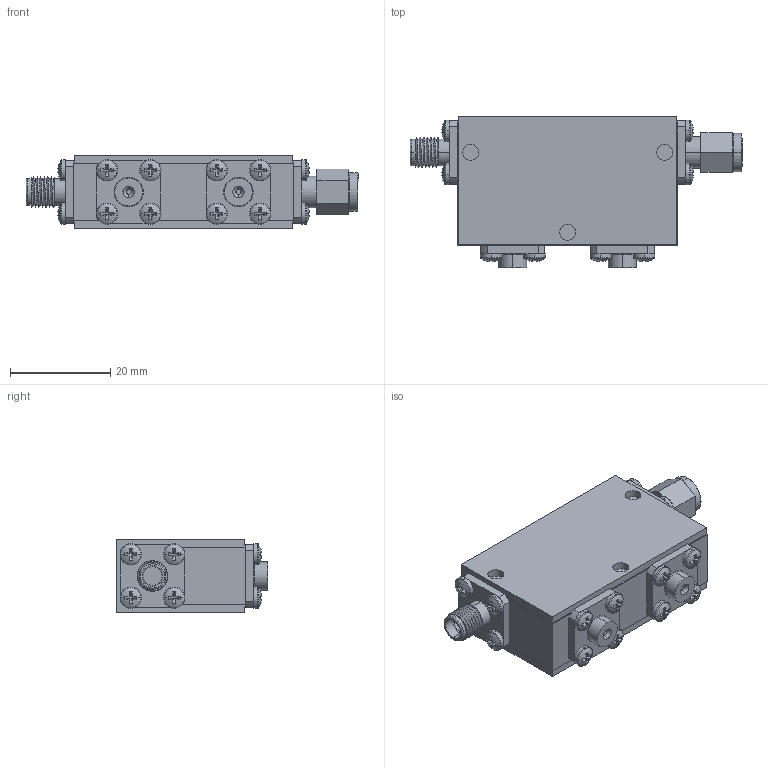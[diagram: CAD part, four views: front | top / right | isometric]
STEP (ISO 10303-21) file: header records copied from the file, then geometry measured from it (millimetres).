
FILE_DESCRIPTION (( 'STEP AP214' ), '1' );
FILE_NAME ('Package 19-2 Iso FM, Cryo Shielded.STEP', '2023-12-20T23:09:15', ( '' ), ( '' ), 'SwSTEP 2.0', 'SolidWorks 2016', '' );
FILE_SCHEMA (( 'AUTOMOTIVE_DESIGN' ));
Length unit declared in the file: inch
Products named in the file (7): Delta SMA-Male; Package Size 19; 030013-1A Same Base thickness as connectors; WR055; Package 19-2 Iso FM, Cryo Shielded; pan cross head_ai_CR-PHMS 0.086-56x0.125x0.125-N; Delta SMA-Female 0.500 flange Threaded
Assembly tree (22 placements, depth 2):
  Package 19-2 Iso FM, Cryo Shielded
    Delta SMA-Female 0.500 flange Threaded
    pan cross head_ai_CR-PHMS 0.086-56x0.125x0.125-N  x16
    Package Size 19
    Delta SMA-Male
    WR055
    030013-1A Same Base thickness as connectors  x2
Bounding box: 66.09 x 30.23 x 14.58 mm (x, y, z)
Volume: 17902.9 mm3; surface area: 13063.1 mm2
Topology: 22 solids, 22 shells, 562 faces, 1289 edges, 797 vertices
Faces by surface type: plane 305, cylinder 170, torus 44, sphere 32, cone 8, bspline 3
Entity records: 6845 total; most frequent: CARTESIAN_POINT 1703, DIRECTION 1105, ORIENTED_EDGE 918, EDGE_CURVE 459, AXIS2_PLACEMENT_3D 447, VERTEX_POINT 295, EDGE_LOOP 252, CIRCLE 240
